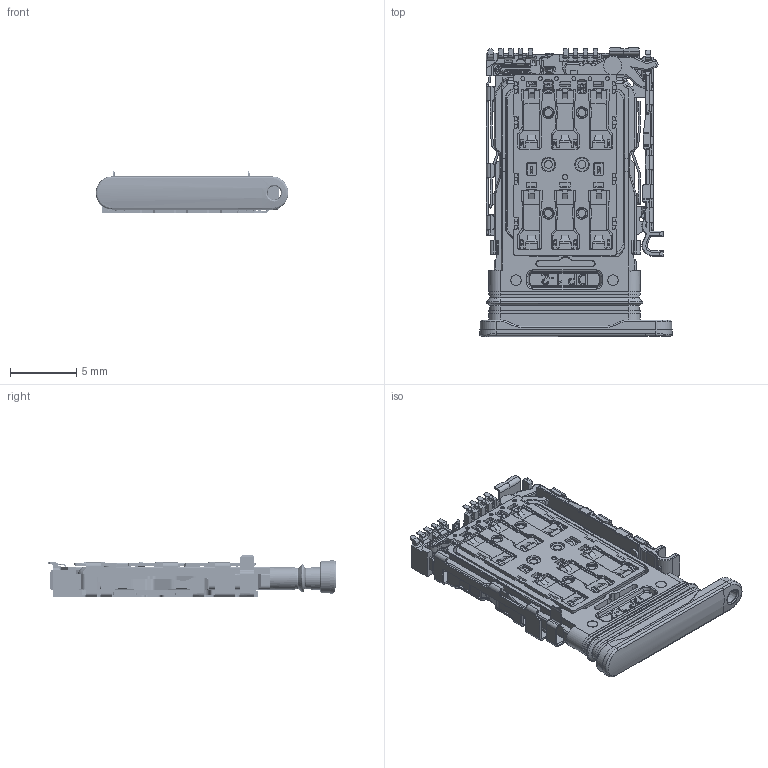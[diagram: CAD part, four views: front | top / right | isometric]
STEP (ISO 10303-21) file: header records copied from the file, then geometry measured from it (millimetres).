
FILE_DESCRIPTION((''),'2;1');
FILE_NAME('1050629BR004-005_ASM','2023-06-21T10:01:44',('MACHENIKE'),(''),'CREO PARAMETRIC BY PTC INC, 2020053','CREO PARAMETRIC BY PTC INC, 2020053','');
FILE_SCHEMA(('CONFIG_CONTROL_DESIGN','SHAPE_APPEARANCE_LAYERS_GROUPS'));
Length unit declared in the file: millimetre
Products named in the file (7): SHELL-BLOCK; NANO-SIM-BLOCK; 1140101WT026; NANO-CARD-01; NANO-CARD-02; TRAY-PART_ASM; 1050629BR004-005_ASM
Assembly tree (6 placements, depth 3):
  1050629BR004-005_ASM
    SHELL-BLOCK
    NANO-SIM-BLOCK
    TRAY-PART_ASM
      1140101WT026
      NANO-CARD-01
      NANO-CARD-02
Bounding box: 14.59 x 21.89 x 3.15 mm (x, y, z)
Volume: 315.2 mm3; surface area: 2250.8 mm2
Topology: 6 solids, 22 shells, 6449 faces, 17796 edges, 11388 vertices
Faces by surface type: plane 3484, cylinder 2119, cone 302, torus 287, bspline 224, sphere 24, extrusion 9
Entity records: 246977 total; most frequent: CARTESIAN_POINT 50392, ORIENTED_EDGE 35195, DIRECTION 33804, EDGE_CURVE 17774, VECTOR 11444, LINE 11435, VERTEX_POINT 11388, AXIS2_PLACEMENT_3D 11180
